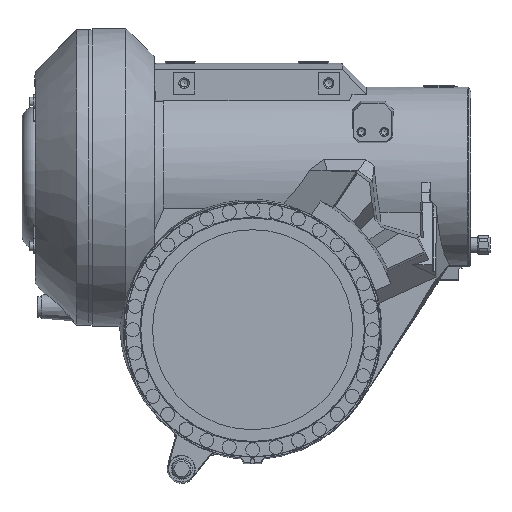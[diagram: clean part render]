
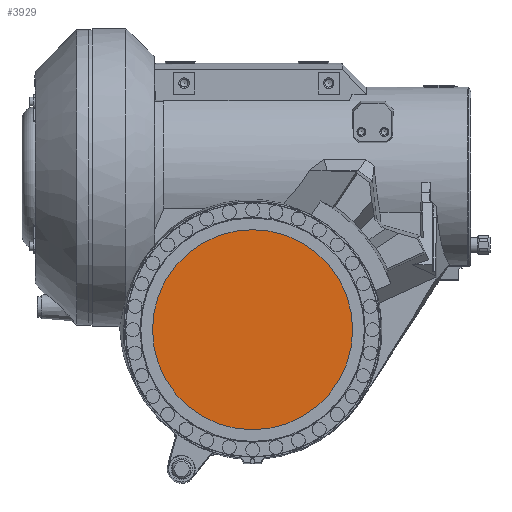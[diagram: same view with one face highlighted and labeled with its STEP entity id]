
A CAD part, front view. The second image highlights one B-rep face of the part: STEP entity #3929.
In plain terms, the highlighted planar face has unit normal (0, -1, 0).
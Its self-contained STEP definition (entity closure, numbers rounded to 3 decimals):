
#1 = EDGE_CURVE ( 'NONE', #31483, #31483, #35820, .T. ) ;
#3929 = ADVANCED_FACE ( 'NONE', ( #29589 ), #4259, .F. ) ;
#4211 = ORIENTED_EDGE ( 'NONE', *, *, #1, .T. ) ;
#4259 = PLANE ( 'NONE',  #55442 ) ;
#4691 = DIRECTION ( 'NONE',  ( 0., 1., 0. ) ) ;
#11393 = DIRECTION ( 'NONE',  ( 1., 0., 0. ) ) ;
#11802 = DIRECTION ( 'NONE',  ( 0., -1., 0. ) ) ;
#12210 = CARTESIAN_POINT ( 'NONE',  ( 350., -265., 2005. ) ) ;
#29589 = FACE_OUTER_BOUND ( 'NONE', #70003, .T. ) ;
#30842 = DIRECTION ( 'NONE',  ( -1., 0., 0. ) ) ;
#31483 = VERTEX_POINT ( 'NONE', #39431 ) ;
#35820 = CIRCLE ( 'NONE', #52064, 131.5 ) ;
#39431 = CARTESIAN_POINT ( 'NONE',  ( 481.5, -265., 2005. ) ) ;
#52064 = AXIS2_PLACEMENT_3D ( 'NONE', #12210, #11802, #11393 ) ;
#55442 = AXIS2_PLACEMENT_3D ( 'NONE', #62360, #4691, #30842 ) ;
#62360 = CARTESIAN_POINT ( 'NONE',  ( 350., -265., 2136. ) ) ;
#70003 = EDGE_LOOP ( 'NONE', ( #4211 ) ) ;
